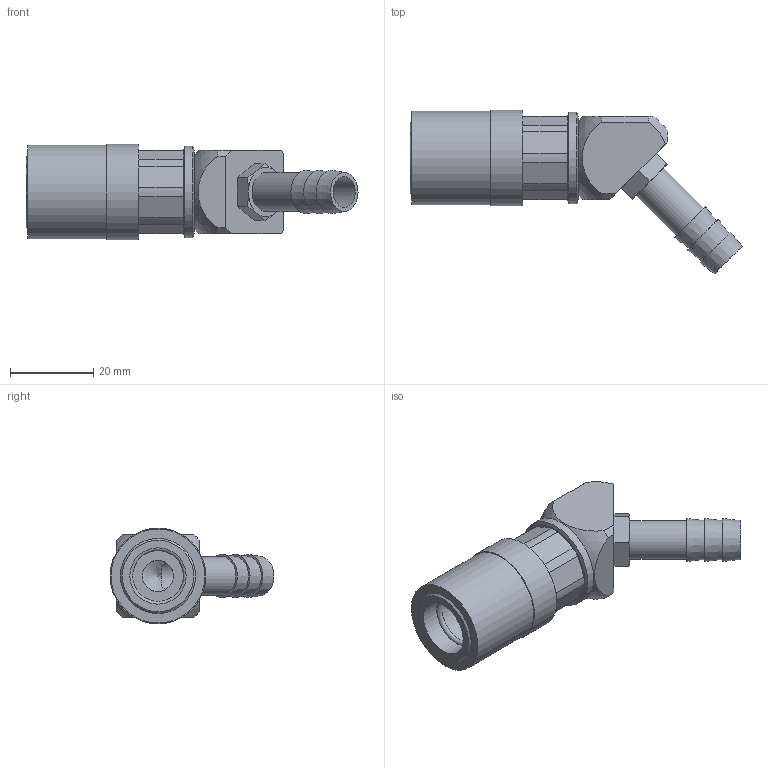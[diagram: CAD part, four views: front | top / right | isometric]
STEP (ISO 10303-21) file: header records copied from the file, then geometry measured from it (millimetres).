
FILE_DESCRIPTION(/* description */ ('STEP AP214'),/* implementation_level */ '2;1');
FILE_NAME(/* name */ 'JS-326-V',/* time_stamp */ '2024-12-19T08:42:59+01:00',/* author */ ('License CC BY-ND 4.0'),/* organization */ ('CADENAS'),/* preprocessor_version */ 'ST-DEVELOPER v19.3',/* originating_system */ 'PARTsolutions',/* authorisation */ ' ');
FILE_SCHEMA (('AUTOMOTIVE_DESIGN {1 0 10303 214 3 1 1}'));
Length unit declared in the file: inch
Products named in the file (1): JS-326-V
Bounding box: 79.96 x 39.45 x 23.06 mm (x, y, z)
Volume: 18521.3 mm3; surface area: 8479.1 mm2
Topology: 1 solids, 1 shells, 80 faces, 202 edges, 133 vertices
Faces by surface type: plane 54, cone 13, cylinder 9, sphere 3, torus 1
Full cylindrical faces by diameter (mm): 7.518 x2, 9.398 x1, 13.564 x2, 20.066 x1, 22.073 x1, 22.606 x1, 23.058 x1
Entity records: 2365 total; most frequent: CARTESIAN_POINT 488, DIRECTION 394, ORIENTED_EDGE 356, EDGE_CURVE 178, AXIS2_PLACEMENT_3D 167, VERTEX_POINT 128, FACE_BOUND 110, EDGE_LOOP 109
